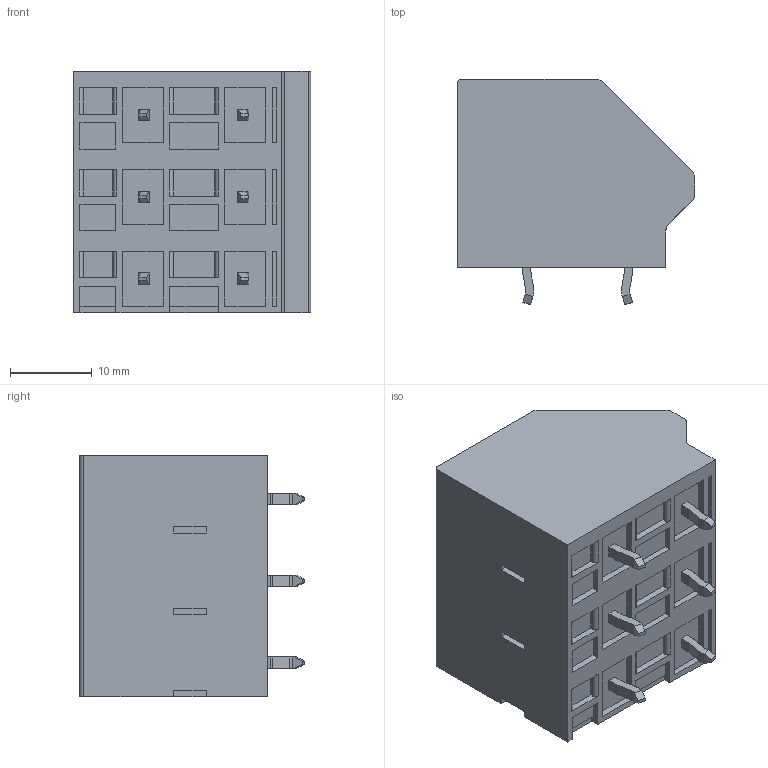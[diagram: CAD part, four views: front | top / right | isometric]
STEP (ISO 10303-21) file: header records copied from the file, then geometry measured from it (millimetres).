
FILE_DESCRIPTION((''),'2;1');
FILE_NAME('H2-03-100_SW0001','2019-05-31T',('zhenbing.lai'),(''),'CREO PARAMETRIC BY PTC INC, 2016260','CREO PARAMETRIC BY PTC INC, 2016260','');
FILE_SCHEMA(('CONFIG_CONTROL_DESIGN'));
Length unit declared in the file: millimetre
Products named in the file (1): H2-03-100_SW0001
Bounding box: 29 x 27.5 x 29.5 mm (x, y, z)
Volume: 16162 mm3; surface area: 4662.3 mm2
Topology: 1 solids, 4 shells, 518 faces, 1368 edges, 910 vertices
Faces by surface type: plane 315, cylinder 131, cone 50, torus 22
Entity records: 16119 total; most frequent: CARTESIAN_POINT 2841, DIRECTION 2797, ORIENTED_EDGE 2736, EDGE_CURVE 1368, VECTOR 945, LINE 945, AXIS2_PLACEMENT_3D 926, VERTEX_POINT 910
